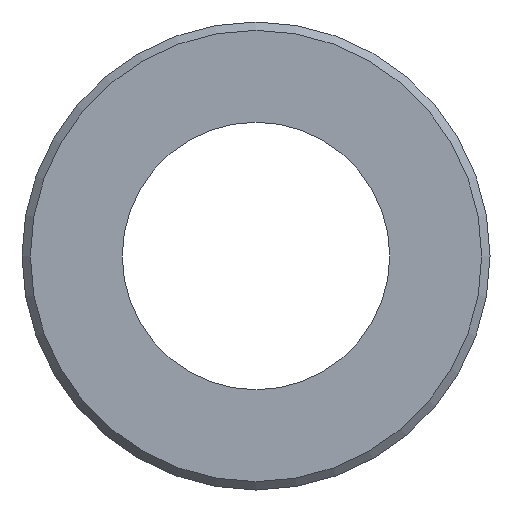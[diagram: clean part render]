
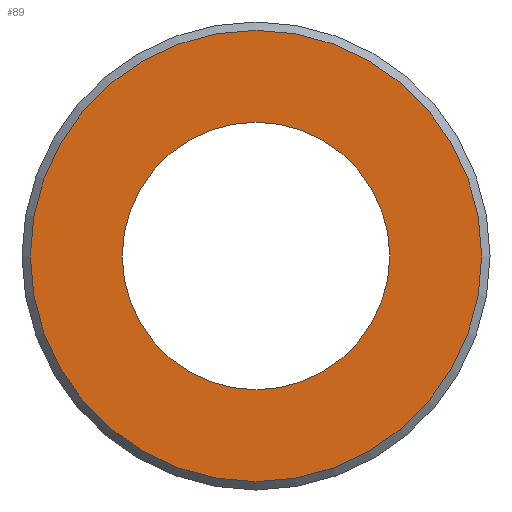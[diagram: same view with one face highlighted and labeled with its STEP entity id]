
A CAD part, front view. The second image highlights one B-rep face of the part: STEP entity #89.
In plain terms, the highlighted planar face has unit normal (0, -1, 0).
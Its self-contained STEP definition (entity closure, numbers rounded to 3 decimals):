
#15=FACE_BOUND('',#30,.T.);
#17=PLANE('',#112);
#23=FACE_OUTER_BOUND('',#29,.T.);
#29=EDGE_LOOP('',(#73));
#30=EDGE_LOOP('',(#74));
#44=CIRCLE('',#109,6.75);
#46=CIRCLE('',#113,4.);
#50=VERTEX_POINT('',#153);
#52=VERTEX_POINT('',#161);
#57=EDGE_CURVE('',#50,#50,#44,.T.);
#60=EDGE_CURVE('',#52,#52,#46,.T.);
#73=ORIENTED_EDGE('',*,*,#57,.F.);
#74=ORIENTED_EDGE('',*,*,#60,.F.);
#89=ADVANCED_FACE('',(#23,#15),#17,.F.);
#109=AXIS2_PLACEMENT_3D('',#155,#126,#127);
#112=AXIS2_PLACEMENT_3D('',#160,#133,#134);
#113=AXIS2_PLACEMENT_3D('',#162,#135,#136);
#126=DIRECTION('center_axis',(0.,1.,0.));
#127=DIRECTION('ref_axis',(1.,0.,0.));
#133=DIRECTION('center_axis',(0.,1.,0.));
#134=DIRECTION('ref_axis',(1.,0.,0.));
#135=DIRECTION('center_axis',(0.,-1.,0.));
#136=DIRECTION('ref_axis',(1.,0.,0.));
#153=CARTESIAN_POINT('',(-6.75,0.,0.));
#155=CARTESIAN_POINT('Origin',(0.,0.,0.));
#160=CARTESIAN_POINT('Origin',(0.,0.,0.));
#161=CARTESIAN_POINT('',(-4.,0.,0.));
#162=CARTESIAN_POINT('Origin',(0.,0.,0.));
